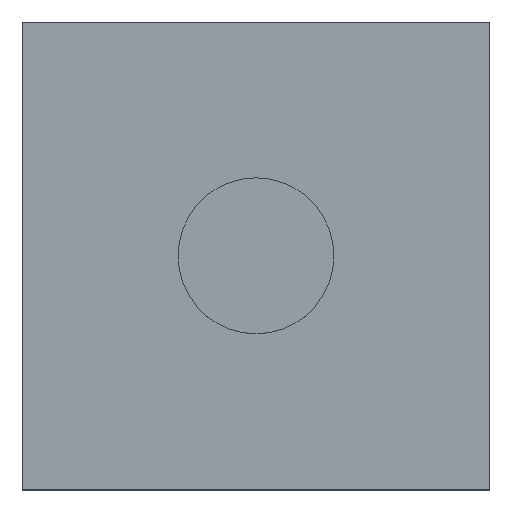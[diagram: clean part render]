
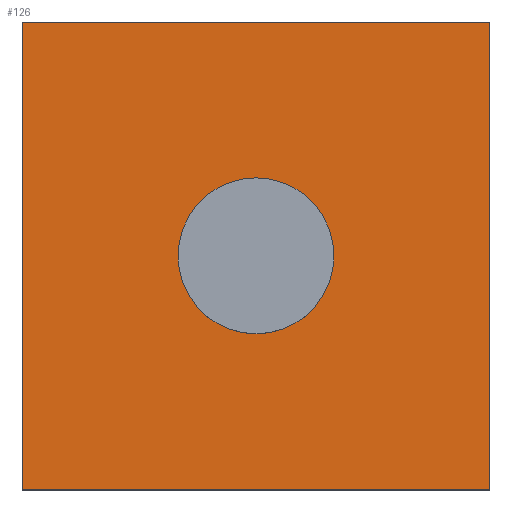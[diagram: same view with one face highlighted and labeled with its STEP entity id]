
A CAD part, top view. The second image highlights one B-rep face of the part: STEP entity #126.
In plain terms, the highlighted planar face has unit normal (0, 0, 1).
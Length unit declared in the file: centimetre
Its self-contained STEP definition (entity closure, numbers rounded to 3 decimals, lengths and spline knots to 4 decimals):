
#15=FACE_BOUND('',#34,.T.);
#17=PLANE('',#150);
#25=FACE_OUTER_BOUND('',#33,.T.);
#33=EDGE_LOOP('',(#98,#99,#100,#101));
#34=EDGE_LOOP('',(#102));
#41=LINE('',#202,#54);
#42=LINE('',#204,#55);
#43=LINE('',#206,#56);
#44=LINE('',#207,#57);
#54=VECTOR('',#169,1.);
#55=VECTOR('',#170,1.);
#56=VECTOR('',#171,1.);
#57=VECTOR('',#172,1.);
#67=CIRCLE('',#148,0.2);
#69=VERTEX_POINT('',#195);
#70=VERTEX_POINT('',#200);
#71=VERTEX_POINT('',#201);
#72=VERTEX_POINT('',#203);
#73=VERTEX_POINT('',#205);
#80=EDGE_CURVE('',#69,#69,#67,.T.);
#81=EDGE_CURVE('',#70,#71,#41,.T.);
#82=EDGE_CURVE('',#71,#72,#42,.T.);
#83=EDGE_CURVE('',#72,#73,#43,.T.);
#84=EDGE_CURVE('',#73,#70,#44,.T.);
#98=ORIENTED_EDGE('',*,*,#81,.T.);
#99=ORIENTED_EDGE('',*,*,#82,.T.);
#100=ORIENTED_EDGE('',*,*,#83,.T.);
#101=ORIENTED_EDGE('',*,*,#84,.T.);
#102=ORIENTED_EDGE('',*,*,#80,.T.);
#126=ADVANCED_FACE('',(#25,#15),#17,.T.);
#148=AXIS2_PLACEMENT_3D('',#197,#163,#164);
#150=AXIS2_PLACEMENT_3D('',#199,#167,#168);
#163=DIRECTION('center_axis',(0.,0.,-1.));
#164=DIRECTION('ref_axis',(1.,0.,0.));
#167=DIRECTION('center_axis',(0.,0.,1.));
#168=DIRECTION('ref_axis',(1.,0.,0.));
#169=DIRECTION('',(0.,1.,0.));
#170=DIRECTION('',(-1.,0.,0.));
#171=DIRECTION('',(0.,-1.,0.));
#172=DIRECTION('',(1.,0.,0.));
#195=CARTESIAN_POINT('',(-0.2,-4.7,-0.36));
#197=CARTESIAN_POINT('Origin',(0.,-4.7,-0.36));
#199=CARTESIAN_POINT('Origin',(0.,-4.7,-0.36));
#200=CARTESIAN_POINT('',(0.6,-5.3,-0.36));
#201=CARTESIAN_POINT('',(0.6,-4.1,-0.36));
#202=CARTESIAN_POINT('',(0.6,-4.7,-0.36));
#203=CARTESIAN_POINT('',(-0.6,-4.1,-0.36));
#204=CARTESIAN_POINT('',(0.,-4.1,-0.36));
#205=CARTESIAN_POINT('',(-0.6,-5.3,-0.36));
#206=CARTESIAN_POINT('',(-0.6,-4.7,-0.36));
#207=CARTESIAN_POINT('',(0.,-5.3,-0.36));
